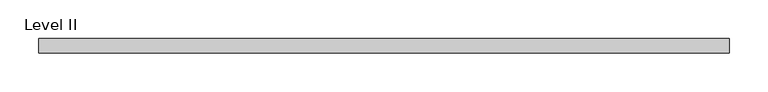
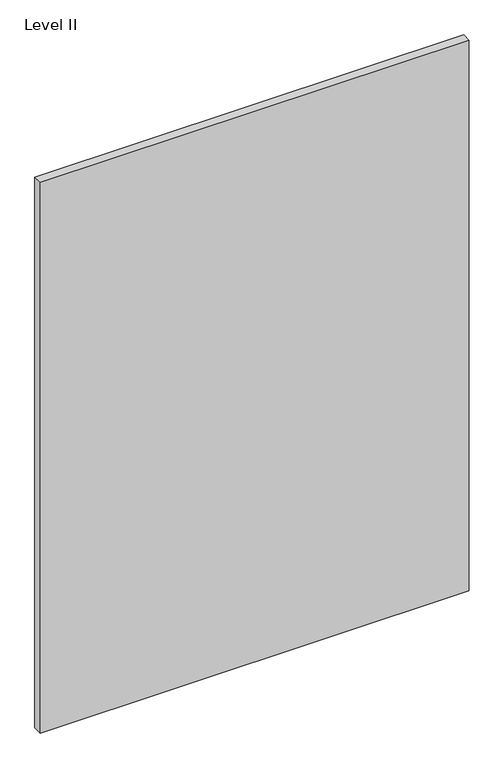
"""IFC4 building model written with IfcOpenShell, lengths in millimetres: proxy geometry, Panel-Fascia-Teknion-Altos : Level II."""

from ifc_helpers import new_model, si_unit, frame, origin, place, context, project, spatial, polyline, outline, extrude, source, transform, mapped, element, save


def level_ii_d745e7d9(model_context):
    return source(origin(), model_context, "Body", "SweptSolid", [
        extrude(outline(polyline([(447.0356344, -9.525), (-447.0356344, -9.525), (-447.0356344, 9.525), (447.0356344, 9.525), (447.0356344, -9.525)])), frame((0.0, 0.0, 3.175), z_axis=(0.0, 0.0, 1.0), x_axis=(1.0, 0.0, 0.0)), (0.0, 0.0, 1.0), 1212.85),
    ])


if __name__ == "__main__":
    model = new_model("IFC4")
    model_context = context("Model", 3, world=origin())
    ifc_project = project(units=[si_unit("LENGTHUNIT", "METRE", prefix="MILLI")], contexts=[model_context])
    site = spatial("IfcSite", under=ifc_project)
    building = spatial("IfcBuilding", under=site)
    placement = place(None, origin())
    level_ii_shape = level_ii_d745e7d9(model_context)
    element("IfcBuildingElementProxy", 1, Name="Panel-Fascia-Teknion-Altos : Level II", ObjectType="Panel-Fascia-Teknion-Altos : Level II", at=placement, inside=building, context=model_context, shape_type="MappedRepresentation", body=[
        mapped(level_ii_shape, transform((0.0, 0.0, 0.0), x_axis=(1.0, 0.0, 0.0), y_axis=(0.0, 1.0, 0.0), z_axis=(0.0, 0.0, 1.0))),
    ])
    save(model, "model.ifc")
